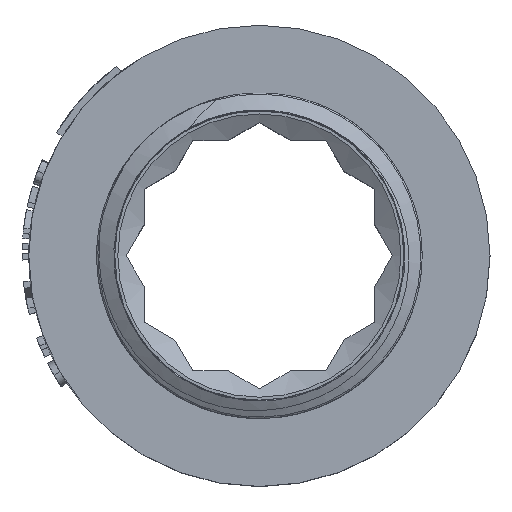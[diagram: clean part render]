
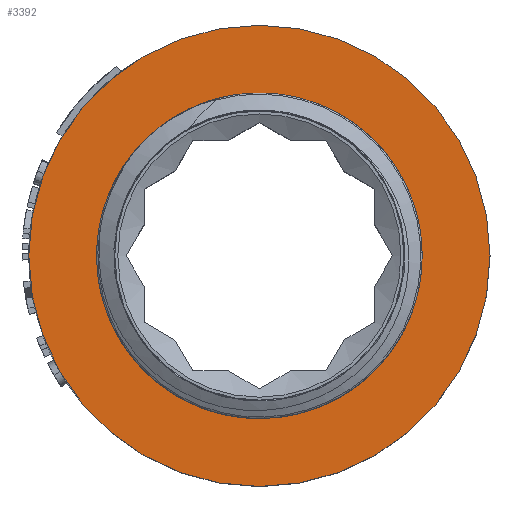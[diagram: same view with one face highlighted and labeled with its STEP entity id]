
A CAD part, top view. The second image highlights one B-rep face of the part: STEP entity #3392.
In plain terms, the highlighted planar face has unit normal (0, 0, 1).
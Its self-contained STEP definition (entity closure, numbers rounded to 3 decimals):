
#81=FACE_BOUND('',#778,.T.);
#417=PLANE('',#3629);
#574=FACE_OUTER_BOUND('',#777,.T.);
#777=EDGE_LOOP('',(#2949,#2950));
#778=EDGE_LOOP('',(#2951,#2952));
#1220=CIRCLE('',#3456,10.72);
#1223=CIRCLE('',#3459,10.72);
#1244=CIRCLE('',#3499,17.1);
#1245=CIRCLE('',#3500,17.1);
#1320=VERTEX_POINT('',#4331);
#1321=VERTEX_POINT('',#4332);
#1368=VERTEX_POINT('',#4579);
#1369=VERTEX_POINT('',#4580);
#1666=EDGE_CURVE('',#1320,#1321,#1220,.T.);
#1670=EDGE_CURVE('',#1321,#1320,#1223,.T.);
#1737=EDGE_CURVE('',#1368,#1369,#1244,.T.);
#1738=EDGE_CURVE('',#1369,#1368,#1245,.T.);
#2949=ORIENTED_EDGE('',*,*,#1737,.T.);
#2950=ORIENTED_EDGE('',*,*,#1738,.T.);
#2951=ORIENTED_EDGE('',*,*,#1666,.F.);
#2952=ORIENTED_EDGE('',*,*,#1670,.F.);
#3392=ADVANCED_FACE('',(#574,#81),#417,.T.);
#3456=AXIS2_PLACEMENT_3D('',#4333,#3684,#3685);
#3459=AXIS2_PLACEMENT_3D('',#4339,#3691,#3692);
#3499=AXIS2_PLACEMENT_3D('',#4581,#3807,#3808);
#3500=AXIS2_PLACEMENT_3D('',#4582,#3809,#3810);
#3629=AXIS2_PLACEMENT_3D('',#6760,#4210,#4211);
#3684=DIRECTION('center_axis',(0.,0.,1.));
#3685=DIRECTION('ref_axis',(1.,0.,0.));
#3691=DIRECTION('center_axis',(0.,0.,1.));
#3692=DIRECTION('ref_axis',(1.,0.,0.));
#3807=DIRECTION('center_axis',(0.,0.,1.));
#3808=DIRECTION('ref_axis',(1.,0.,0.));
#3809=DIRECTION('center_axis',(0.,0.,1.));
#3810=DIRECTION('ref_axis',(1.,0.,0.));
#4210=DIRECTION('center_axis',(0.,0.,1.));
#4211=DIRECTION('ref_axis',(1.,0.,0.));
#4331=CARTESIAN_POINT('',(0.,10.72,-12.));
#4332=CARTESIAN_POINT('',(0.,-10.72,-12.));
#4333=CARTESIAN_POINT('Origin',(0.,0.,-12.));
#4339=CARTESIAN_POINT('Origin',(0.,0.,-12.));
#4579=CARTESIAN_POINT('',(0.,-17.1,-12.));
#4580=CARTESIAN_POINT('',(0.,17.1,-12.));
#4581=CARTESIAN_POINT('Origin',(0.,0.,-12.));
#4582=CARTESIAN_POINT('Origin',(0.,0.,-12.));
#6760=CARTESIAN_POINT('Origin',(0.,-12.065,-12.));
